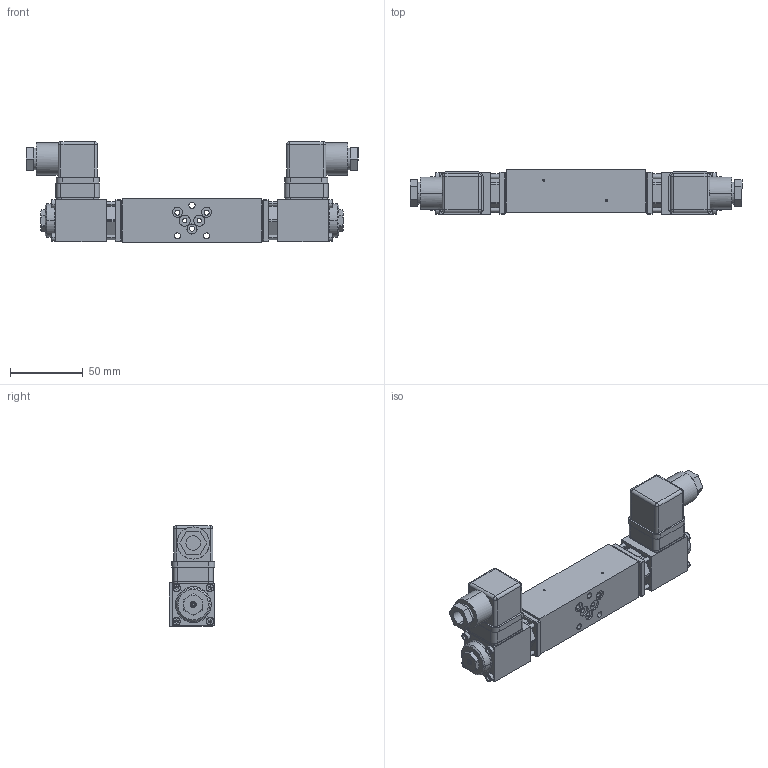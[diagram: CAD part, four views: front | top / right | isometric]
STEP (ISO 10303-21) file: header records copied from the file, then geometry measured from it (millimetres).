
FILE_DESCRIPTION (( 'STEP AP214' ), '1' );
FILE_NAME ('D.PSA03-AB.STEP', '2017-04-19T12:49:21', ( '' ), ( '' ), 'SwSTEP 2.0', 'SolidWorks 2016', '' );
FILE_SCHEMA (( 'AUTOMOTIVE_DESIGN' ));
Length unit declared in the file: millimetre
Products named in the file (1): D.PSA03-AB
Bounding box: 227.9 x 31.25 x 69.3 mm (x, y, z)
Volume: 225138.6 mm3; surface area: 61275.1 mm2
Topology: 13 solids, 23 shells, 1374 faces, 3462 edges, 2206 vertices
Faces by surface type: plane 764, cylinder 434, cone 112, torus 44, bspline 12, sphere 8
Entity records: 56373 total; most frequent: CARTESIAN_POINT 7689, DIRECTION 7258, ORIENTED_EDGE 6860, EDGE_CURVE 3430, AXIS2_PLACEMENT_3D 2599, VERTEX_POINT 2206, LINE 2060, VECTOR 2060
